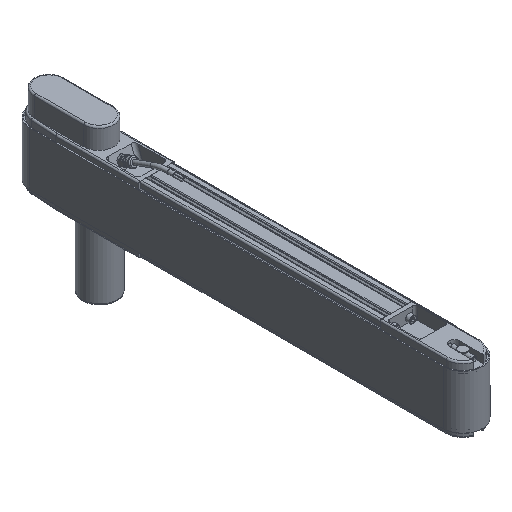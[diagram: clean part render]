
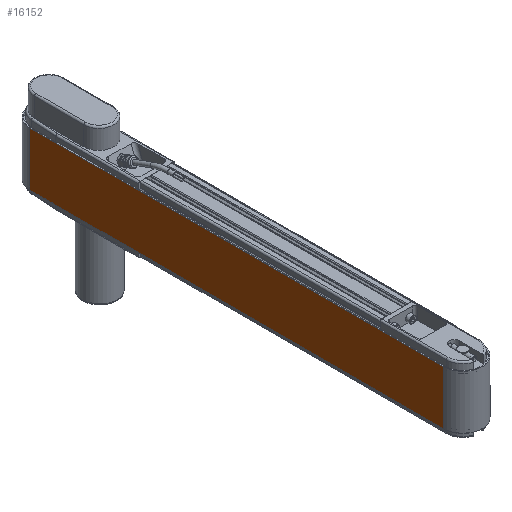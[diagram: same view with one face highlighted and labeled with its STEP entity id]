
A CAD part, isometric view. The second image highlights one B-rep face of the part: STEP entity #16152.
In plain terms, the highlighted planar face has unit normal (-1, 0, 0).
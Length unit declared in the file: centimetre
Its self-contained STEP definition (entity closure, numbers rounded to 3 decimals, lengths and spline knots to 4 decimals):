
#507=PLANE('',#17216);
#1168=FACE_OUTER_BOUND('',#2059,.T.);
#2059=EDGE_LOOP('',(#10920,#10921,#10922,#10923));
#3057=LINE('',#24013,#4316);
#3060=LINE('',#24022,#4319);
#3063=LINE('',#24030,#4322);
#3064=LINE('',#24032,#4323);
#4316=VECTOR('',#19327,1.);
#4319=VECTOR('',#19336,1.);
#4322=VECTOR('',#19345,1.);
#4323=VECTOR('',#19348,1.);
#6469=VERTEX_POINT('',#24009);
#6471=VERTEX_POINT('',#24012);
#6473=VERTEX_POINT('',#24018);
#6476=VERTEX_POINT('',#24028);
#8189=EDGE_CURVE('',#6471,#6469,#3057,.T.);
#8194=EDGE_CURVE('',#6473,#6471,#3060,.T.);
#8198=EDGE_CURVE('',#6469,#6476,#3063,.T.);
#8199=EDGE_CURVE('',#6476,#6473,#3064,.T.);
#10920=ORIENTED_EDGE('',*,*,#8199,.T.);
#10921=ORIENTED_EDGE('',*,*,#8194,.T.);
#10922=ORIENTED_EDGE('',*,*,#8189,.T.);
#10923=ORIENTED_EDGE('',*,*,#8198,.T.);
#16152=ADVANCED_FACE('',(#1168),#507,.T.);
#17216=AXIS2_PLACEMENT_3D('',#24031,#19346,#19347);
#19327=DIRECTION('',(0.,-1.,0.));
#19336=DIRECTION('',(0.,0.,-1.));
#19345=DIRECTION('',(0.,0.,1.));
#19346=DIRECTION('center_axis',(-1.,0.,0.));
#19347=DIRECTION('ref_axis',(0.,0.,
1.));
#19348=DIRECTION('',(0.,1.,0.));
#24009=CARTESIAN_POINT('',(-2.33,-37.,-3.25));
#24012=CARTESIAN_POINT('',(-2.33,13.,-3.25));
#24013=CARTESIAN_POINT('',(-2.33,-37.,-3.25));
#24018=CARTESIAN_POINT('',(-2.33,13.,3.25));
#24022=CARTESIAN_POINT('',(-2.33,13.,0.));
#24028=CARTESIAN_POINT('',(-2.33,-37.,3.25));
#24030=CARTESIAN_POINT('',(-2.33,-37.,0.));
#24031=CARTESIAN_POINT('Origin',(-2.33,-37.,0.));
#24032=CARTESIAN_POINT('',(-2.33,-37.,3.25));
